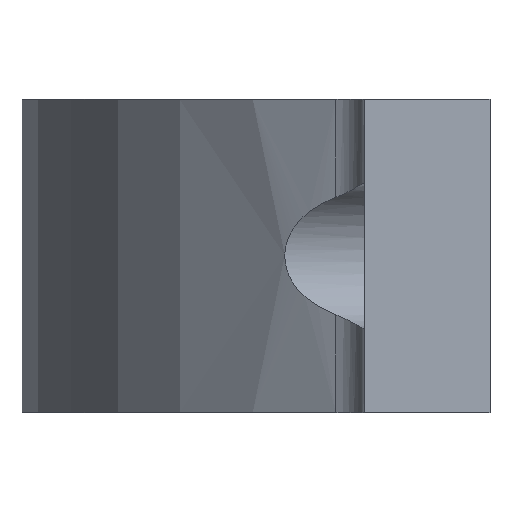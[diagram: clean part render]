
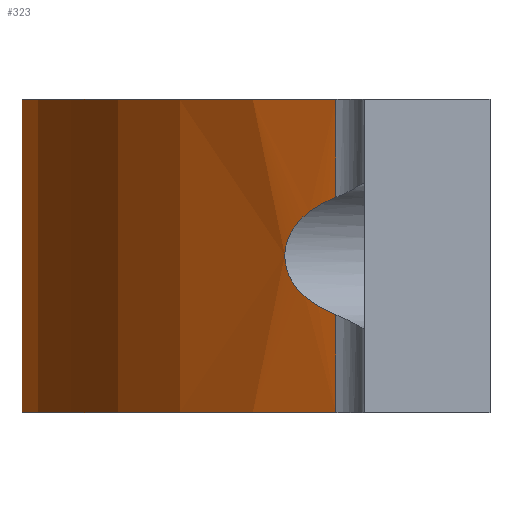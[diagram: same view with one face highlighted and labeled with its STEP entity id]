
A CAD part, left-side view. The second image highlights one B-rep face of the part: STEP entity #323.
In plain terms, the highlighted cylindrical face has radius 22.31 mm (diameter 44.62 mm), a partial arc.
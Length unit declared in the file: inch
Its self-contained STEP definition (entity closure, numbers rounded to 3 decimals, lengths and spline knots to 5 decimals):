
#29=FACE_OUTER_BOUND('',#47,.T.);
#47=EDGE_LOOP('',(#221,#222,#223,#224,#225,#226,#227,#228));
#71=CIRCLE('',#350,0.87835);
#72=CIRCLE('',#351,0.87835);
#85=B_SPLINE_CURVE_WITH_KNOTS('',3,(#479,#480,#481,#482,#483,#484,#485,
#486,#487,#488,#489,#490,#491,#492,#493,#494,#495,#496,#497,#498,#499,#500),
 .UNSPECIFIED.,.F.,.F.,(4,2,2,2,2,2,2,2,2,2,4),(-2.98587,-2.94792,
-2.83437,-2.74714,-2.70353,-2.65991,
-2.6163,-2.57268,-2.48545,-2.3719,
-2.33395),.UNSPECIFIED.);
#86=B_SPLINE_CURVE_WITH_KNOTS('',3,(#508,#509,#510,#511,#512,#513,#514,
#515,#516,#517,#518,#519,#520,#521,#522,#523,#524,#525,#526,#527,#528,#529,
#530),.UNSPECIFIED.,.F.,.F.,(4,2,2,2,2,3,2,2,2,2,4),(-0.32596,
-0.28801,-0.17446,-0.08723,-0.04362,
0.,0.04362,0.08723,0.17446,0.28801,
0.32596),.UNSPECIFIED.);
#91=LINE('',#477,#117);
#92=LINE('',#502,#118);
#93=LINE('',#506,#119);
#94=LINE('',#532,#120);
#117=VECTOR('',#385,0.14775);
#118=VECTOR('',#386,0.14775);
#119=VECTOR('',#389,0.14775);
#120=VECTOR('',#390,0.14775);
#143=VERTEX_POINT('',#475);
#144=VERTEX_POINT('',#476);
#145=VERTEX_POINT('',#478);
#146=VERTEX_POINT('',#501);
#147=VERTEX_POINT('',#503);
#148=VERTEX_POINT('',#505);
#149=VERTEX_POINT('',#507);
#150=VERTEX_POINT('',#531);
#175=EDGE_CURVE('',#143,#144,#91,.F.);
#176=EDGE_CURVE('',#144,#145,#85,.T.);
#177=EDGE_CURVE('',#145,#146,#92,.F.);
#178=EDGE_CURVE('',#146,#147,#71,.T.);
#179=EDGE_CURVE('',#147,#148,#93,.T.);
#180=EDGE_CURVE('',#148,#149,#86,.T.);
#181=EDGE_CURVE('',#149,#150,#94,.T.);
#182=EDGE_CURVE('',#143,#150,#72,.T.);
#221=ORIENTED_EDGE('',*,*,#175,.T.);
#222=ORIENTED_EDGE('',*,*,#176,.T.);
#223=ORIENTED_EDGE('',*,*,#177,.T.);
#224=ORIENTED_EDGE('',*,*,#178,.T.);
#225=ORIENTED_EDGE('',*,*,#179,.T.);
#226=ORIENTED_EDGE('',*,*,#180,.T.);
#227=ORIENTED_EDGE('',*,*,#181,.T.);
#228=ORIENTED_EDGE('',*,*,#182,.F.);
#313=CYLINDRICAL_SURFACE('',#349,0.87835);
#323=ADVANCED_FACE('',(#29),#313,.T.);
#349=AXIS2_PLACEMENT_3D('',#474,#383,#384);
#350=AXIS2_PLACEMENT_3D('',#504,#387,#388);
#351=AXIS2_PLACEMENT_3D('',#533,#391,#392);
#383=DIRECTION('center_axis',(0.,0.,1.));
#384=DIRECTION('ref_axis',(1.,0.,0.));
#385=DIRECTION('',(0.,0.,1.));
#386=DIRECTION('',(0.,0.,1.));
#387=DIRECTION('center_axis',(0.,0.,1.));
#388=DIRECTION('ref_axis',(1.,0.,0.));
#389=DIRECTION('',(0.,0.,1.));
#390=DIRECTION('',(0.,0.,1.));
#391=DIRECTION('center_axis',(0.,0.,1.));
#392=DIRECTION('ref_axis',(1.,0.,0.));
#474=CARTESIAN_POINT('Origin',(0.,-0.169,-0.23622));
#475=CARTESIAN_POINT('',(0.78109,0.23273,0.23622));
#476=CARTESIAN_POINT('',(0.78109,0.23273,0.08847));
#477=CARTESIAN_POINT('',(0.78109,0.23273,0.08847));
#478=CARTESIAN_POINT('',(0.78109,0.23273,-0.08847));
#479=CARTESIAN_POINT('Ctrl Pts',(0.78109,0.23273,0.08847));
#480=CARTESIAN_POINT('Ctrl Pts',(0.77884,0.23711,0.08681));
#481=CARTESIAN_POINT('Ctrl Pts',(0.77661,0.24135,0.08503));
#482=CARTESIAN_POINT('Ctrl Pts',(0.76793,0.25758,0.07751));
#483=CARTESIAN_POINT('Ctrl Pts',(0.76012,0.27127,0.06905));
#484=CARTESIAN_POINT('Ctrl Pts',(0.74953,0.28901,0.0527));
#485=CARTESIAN_POINT('Ctrl Pts',(0.74493,0.29642,0.04369));
#486=CARTESIAN_POINT('Ctrl Pts',(0.74,0.30418,0.02823));
#487=CARTESIAN_POINT('Ctrl Pts',(0.73869,0.30622,0.02276));
#488=CARTESIAN_POINT('Ctrl Pts',(0.73691,0.30897,0.0115));
#489=CARTESIAN_POINT('Ctrl Pts',(0.73646,0.30967,0.00572));
#490=CARTESIAN_POINT('Ctrl Pts',(0.73646,0.30967,-0.00572));
#491=CARTESIAN_POINT('Ctrl Pts',(0.73691,0.30897,-0.0115));
#492=CARTESIAN_POINT('Ctrl Pts',(0.73869,0.30622,-0.02276));
#493=CARTESIAN_POINT('Ctrl Pts',(0.74,0.30418,-0.02823));
#494=CARTESIAN_POINT('Ctrl Pts',(0.74493,0.29642,-0.04369));
#495=CARTESIAN_POINT('Ctrl Pts',(0.74953,0.28901,-0.0527));
#496=CARTESIAN_POINT('Ctrl Pts',(0.76012,0.27127,-0.06905));
#497=CARTESIAN_POINT('Ctrl Pts',(0.76793,0.25758,-0.07751));
#498=CARTESIAN_POINT('Ctrl Pts',(0.77661,0.24135,-0.08503));
#499=CARTESIAN_POINT('Ctrl Pts',(0.77884,0.23711,-0.08681));
#500=CARTESIAN_POINT('Ctrl Pts',(0.78109,0.23273,-0.08847));
#501=CARTESIAN_POINT('',(0.78109,0.23273,-0.23622));
#502=CARTESIAN_POINT('',(0.78109,0.23273,-0.23622));
#503=CARTESIAN_POINT('',(-0.78109,0.23273,-0.23622));
#504=CARTESIAN_POINT('Origin',(0.,-0.169,-0.23622));
#505=CARTESIAN_POINT('',(-0.78109,0.23273,-0.08847));
#506=CARTESIAN_POINT('',(-0.78109,0.23273,-0.23622));
#507=CARTESIAN_POINT('',(-0.78109,0.23273,0.08847));
#508=CARTESIAN_POINT('Ctrl Pts',(-0.78109,0.23273,-0.08847));
#509=CARTESIAN_POINT('Ctrl Pts',(-0.77884,0.23711,-0.08681));
#510=CARTESIAN_POINT('Ctrl Pts',(-0.77661,0.24135,-0.08503));
#511=CARTESIAN_POINT('Ctrl Pts',(-0.76793,0.25758,-0.07751));
#512=CARTESIAN_POINT('Ctrl Pts',(-0.76012,0.27127,-0.06905));
#513=CARTESIAN_POINT('Ctrl Pts',(-0.74953,0.28901,-0.0527));
#514=CARTESIAN_POINT('Ctrl Pts',(-0.74493,0.29642,-0.04369));
#515=CARTESIAN_POINT('Ctrl Pts',(-0.74,0.30418,-0.02823));
#516=CARTESIAN_POINT('Ctrl Pts',(-0.73869,0.30622,-0.02276));
#517=CARTESIAN_POINT('Ctrl Pts',(-0.73691,0.30897,-0.0115));
#518=CARTESIAN_POINT('Ctrl Pts',(-0.73646,0.30967,-0.00572));
#519=CARTESIAN_POINT('Ctrl Pts',(-0.73646,0.30967,0.));
#520=CARTESIAN_POINT('Ctrl Pts',(-0.73646,0.30967,0.00572));
#521=CARTESIAN_POINT('Ctrl Pts',(-0.73691,0.30897,0.0115));
#522=CARTESIAN_POINT('Ctrl Pts',(-0.73869,0.30622,0.02276));
#523=CARTESIAN_POINT('Ctrl Pts',(-0.74,0.30418,0.02823));
#524=CARTESIAN_POINT('Ctrl Pts',(-0.74493,0.29642,0.04369));
#525=CARTESIAN_POINT('Ctrl Pts',(-0.74953,0.28901,0.0527));
#526=CARTESIAN_POINT('Ctrl Pts',(-0.76012,0.27127,0.06905));
#527=CARTESIAN_POINT('Ctrl Pts',(-0.76793,0.25758,0.07751));
#528=CARTESIAN_POINT('Ctrl Pts',(-0.77661,0.24135,0.08503));
#529=CARTESIAN_POINT('Ctrl Pts',(-0.77884,0.23711,0.08681));
#530=CARTESIAN_POINT('Ctrl Pts',(-0.78109,0.23273,0.08847));
#531=CARTESIAN_POINT('',(-0.78109,0.23273,0.23622));
#532=CARTESIAN_POINT('',(-0.78109,0.23273,0.08847));
#533=CARTESIAN_POINT('Origin',(0.,-0.169,0.23622));
